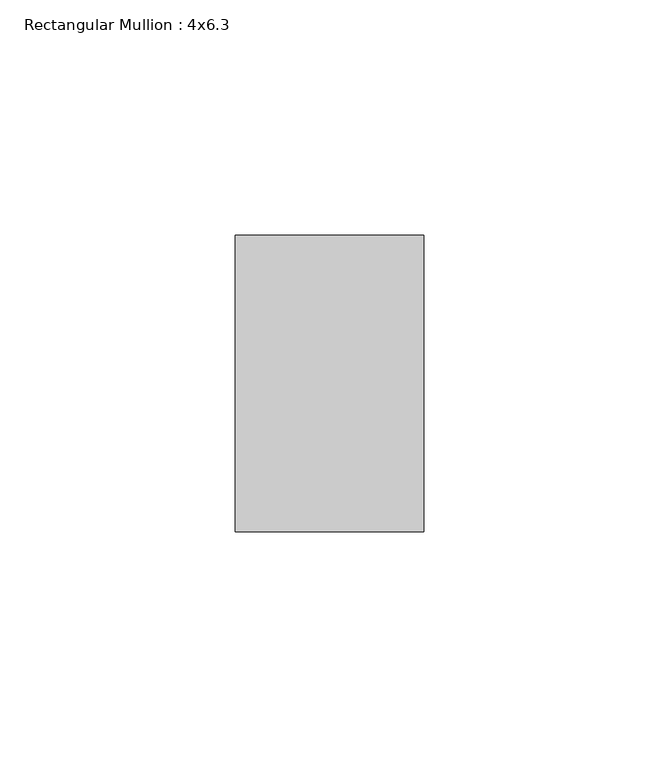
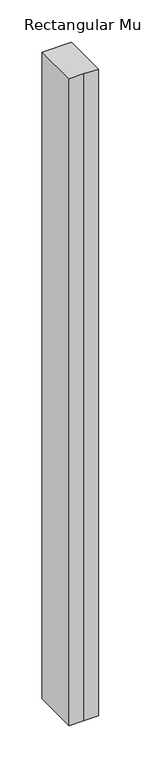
"""IFC4 building model written with IfcOpenShell, lengths in millimetres: member geometry, Rectangular Mullion : 4x6.3."""

from ifc_helpers import new_model, si_unit, frame, origin, place, context, project, spatial, polyline, outline, extrude, source, transform, mapped, element, save


def rectangular_mullion_4x6_3_44c13275(model_context):
    return source(origin(), model_context, "Body", "SweptSolid", [
        extrude(outline(polyline([(-20.0, 20.0), (-20.0, 83.0), (20.0, 83.0), (20.0, 20.0), (0.0, 20.0), (-20.0, 20.0)])), frame((0.0, 0.0, -929.3925798), z_axis=(0.0, 0.0, 1.0), x_axis=(1.0, 0.0, 0.0)), (0.0, 0.0, 1.0), 929.3925798),
    ])


if __name__ == "__main__":
    model = new_model("IFC4")
    model_context = context("Model", 3, world=origin())
    ifc_project = project(units=[si_unit("LENGTHUNIT", "METRE", prefix="MILLI")], contexts=[model_context])
    site = spatial("IfcSite", under=ifc_project)
    building = spatial("IfcBuilding", under=site)
    placement = place(None, origin())
    rectangular_mullion_4x6_3_shape = rectangular_mullion_4x6_3_44c13275(model_context)
    element("IfcMember", 1, ObjectType="Rectangular Mullion : 4x6.3", at=placement, inside=building, context=model_context, shape_type="MappedRepresentation", body=[
        mapped(rectangular_mullion_4x6_3_shape, transform((0.0, 0.0, 0.0), x_axis=(1.0, 0.0, 0.0), y_axis=(0.0, 1.0, 0.0), z_axis=(0.0, 0.0, 1.0))),
    ])
    save(model, "model.ifc")
